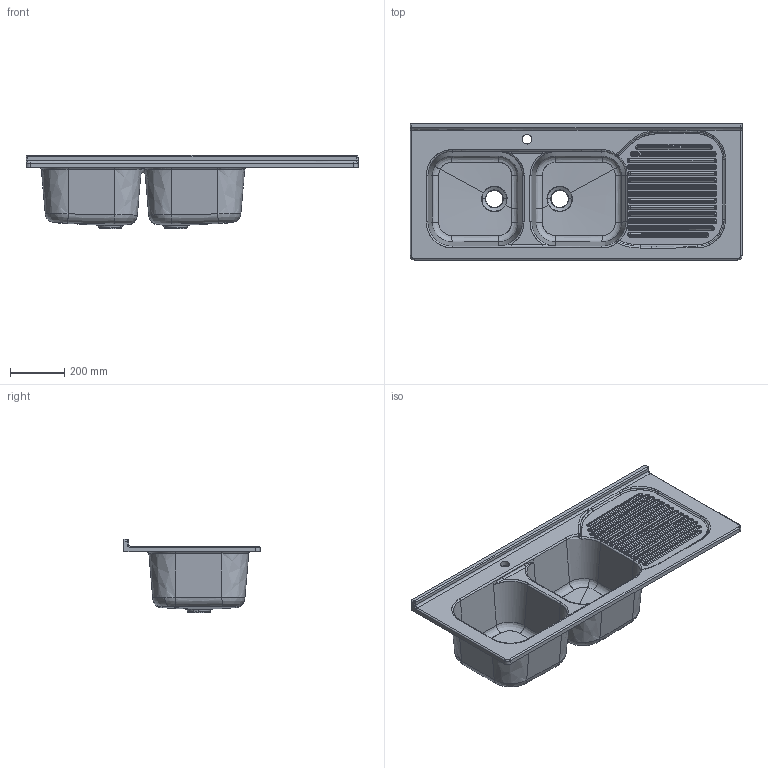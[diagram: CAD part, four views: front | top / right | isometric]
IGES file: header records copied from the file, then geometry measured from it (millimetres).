
Start section: START RECORD GO HERE.
Global section: file name: 5004.igs; native system: DASSAULT SYSTEMES CATIA V5 R19 - www.3ds.com; preprocessor: CATIA Version 5 Release 19 SP 5 ; author: gioge; organization: LAPTOP-G94B6G74; date: 20201022.142948; units: millimetre
Bounding box: 1220 x 500 x 269 mm (x, y, z)
Surface area: 2208818.8 mm2 (no closed solid volume)
Topology: 0 solids, 0 shells, 454 faces, 2134 edges, 2128 vertices
Faces by surface type: revolution 285, bspline 131, plane 38
